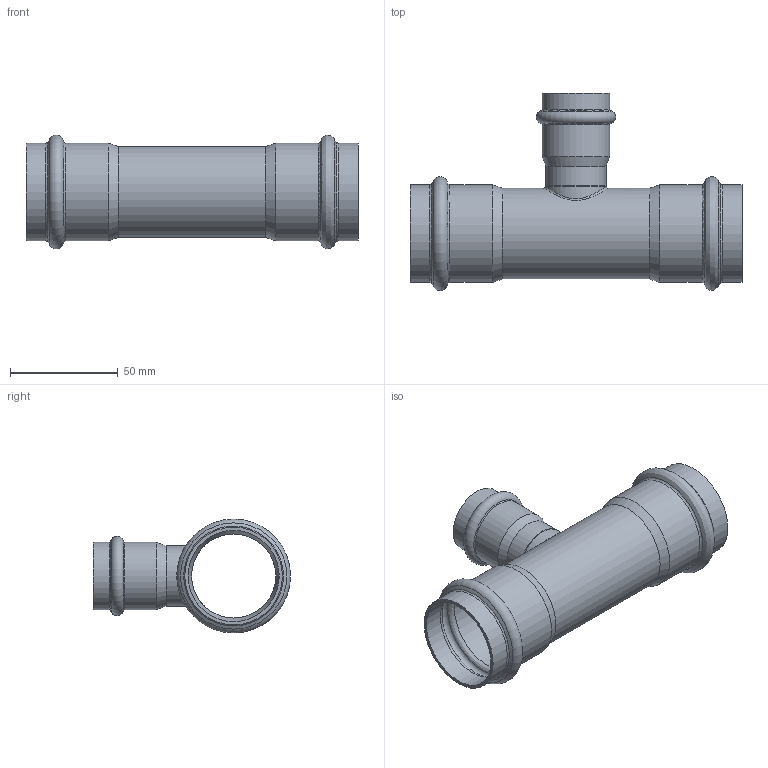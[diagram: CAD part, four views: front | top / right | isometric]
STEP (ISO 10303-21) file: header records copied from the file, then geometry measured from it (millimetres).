
FILE_DESCRIPTION((''),'2;1');
FILE_NAME('G:\Technics\CAD\Bauteile\042\69130422842(1).stp','2008-03-04T12:02:20',('herberg'),(''),'Autodesk Inventor 2008','Autodesk Inventor 2008','');
FILE_SCHEMA(('AUTOMOTIVE_DESIGN { 1 0 10303 214 1 1 1 1 }'));
Length unit declared in the file: millimetre
Products named in the file (3): 69130422842(1); LM_69130422842(1); 6924328HM(1)
Assembly tree (2 placements, depth 2):
  69130422842(1)
    LM_69130422842(1)
    6924328HM(1)
Bounding box: 154 x 91.39 x 52.79 mm (x, y, z)
Volume: 38730.4 mm3; surface area: 52451.8 mm2
Topology: 2 solids, 2 shells, 55 faces, 115 edges, 64 vertices
Faces by surface type: bspline 24, cylinder 14, cone 8, torus 5, plane 4
Full cylindrical faces by diameter (mm): 25 x2, 28 x2, 28.2 x2, 31.2 x2, 39 x1, 42 x1, 42.3 x2, 45.3 x2
Entity records: 3312 total; most frequent: CARTESIAN_POINT 2374, DIRECTION 178, ORIENTED_EDGE 116, EDGE_LOOP 110, AXIS2_PLACEMENT_3D 89, EDGE_CURVE 58, VERTEX_POINT 56, FACE_OUTER_BOUND 55
